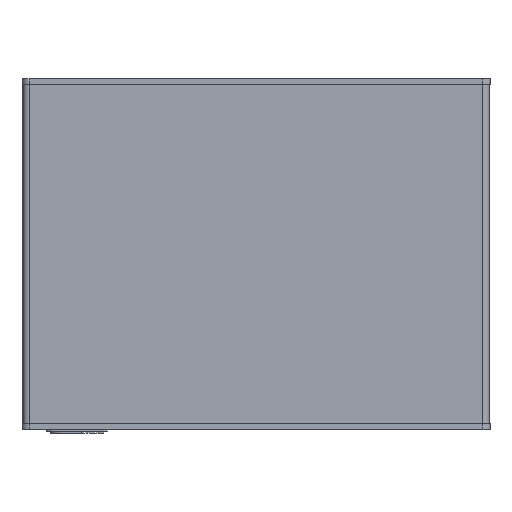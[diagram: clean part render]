
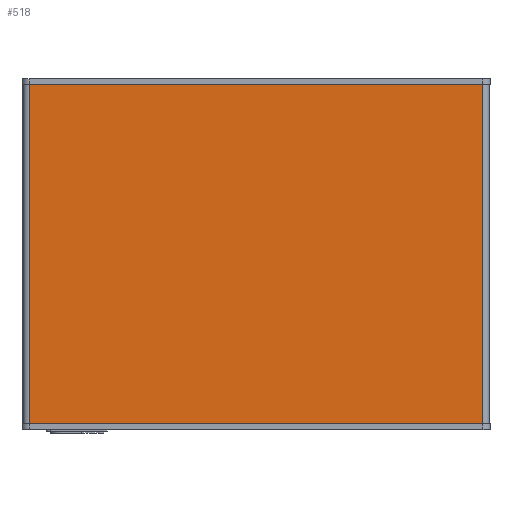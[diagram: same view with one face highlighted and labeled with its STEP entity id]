
A CAD part, top view. The second image highlights one B-rep face of the part: STEP entity #518.
In plain terms, the highlighted free-form (B-spline) face has degree [2, 1] with [3, 2] control points.
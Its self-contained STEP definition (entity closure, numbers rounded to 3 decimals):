
#210=(
BOUNDED_SURFACE()
B_SPLINE_SURFACE(2,1,((#4399,#4400),(#4401,#4402),(#4403,#4404)),
 .UNSPECIFIED.,.F.,.F.,.F.)
B_SPLINE_SURFACE_WITH_KNOTS((3,3),(2,2),(-168.898,-4.031),
(0.,123.192),.UNSPECIFIED.)
GEOMETRIC_REPRESENTATION_ITEM()
RATIONAL_B_SPLINE_SURFACE(((1.,1.),(1.,1.),(1.,1.)))
REPRESENTATION_ITEM('')
SURFACE()
);
#518=ADVANCED_FACE('',(#596),#210,.T.);
#596=FACE_OUTER_BOUND('',#676,.T.);
#676=EDGE_LOOP('',(#987,#988,#989,#990));
#987=ORIENTED_EDGE('',*,*,#1356,.T.);
#988=ORIENTED_EDGE('',*,*,#1357,.T.);
#989=ORIENTED_EDGE('',*,*,#1358,.F.);
#990=ORIENTED_EDGE('',*,*,#1355,.F.);
#1355=EDGE_CURVE('',#1939,#1940,#1573,.T.);
#1356=EDGE_CURVE('',#1939,#1941,#1574,.T.);
#1357=EDGE_CURVE('',#1941,#1942,#1575,.T.);
#1358=EDGE_CURVE('',#1940,#1942,#1576,.T.);
#1573=(
BOUNDED_CURVE()
B_SPLINE_CURVE(1,(#4409,#4410),.UNSPECIFIED.,.F.,.F.)
B_SPLINE_CURVE_WITH_KNOTS((2,2),(0.,123.192),.UNSPECIFIED.)
CURVE()
GEOMETRIC_REPRESENTATION_ITEM()
RATIONAL_B_SPLINE_CURVE((1.,1.))
REPRESENTATION_ITEM('')
);
#1574=(
BOUNDED_CURVE()
B_SPLINE_CURVE(2,(#4411,#4412,#4413),.UNSPECIFIED.,.F.,.F.)
B_SPLINE_CURVE_WITH_KNOTS((3,3),(-168.898,-4.031),
 .UNSPECIFIED.)
CURVE()
GEOMETRIC_REPRESENTATION_ITEM()
RATIONAL_B_SPLINE_CURVE((1.,1.,1.))
REPRESENTATION_ITEM('')
);
#1575=(
BOUNDED_CURVE()
B_SPLINE_CURVE(1,(#4414,#4415),.UNSPECIFIED.,.F.,.F.)
B_SPLINE_CURVE_WITH_KNOTS((2,2),(0.,123.192),.UNSPECIFIED.)
CURVE()
GEOMETRIC_REPRESENTATION_ITEM()
RATIONAL_B_SPLINE_CURVE((1.,1.))
REPRESENTATION_ITEM('')
);
#1576=(
BOUNDED_CURVE()
B_SPLINE_CURVE(2,(#4416,#4417,#4418),.UNSPECIFIED.,.F.,.F.)
B_SPLINE_CURVE_WITH_KNOTS((3,3),(-168.898,-4.031),
 .UNSPECIFIED.)
CURVE()
GEOMETRIC_REPRESENTATION_ITEM()
RATIONAL_B_SPLINE_CURVE((1.,1.,1.))
REPRESENTATION_ITEM('')
);
#1939=VERTEX_POINT('',#4405);
#1940=VERTEX_POINT('',#4406);
#1941=VERTEX_POINT('',#4407);
#1942=VERTEX_POINT('',#4408);
#4399=CARTESIAN_POINT('',(-82.434,-61.593,27.56));
#4400=CARTESIAN_POINT('',(-82.434,61.598,27.56));
#4401=CARTESIAN_POINT('',(0.,-61.593,27.56));
#4402=CARTESIAN_POINT('',(0.,61.598,27.56));
#4403=CARTESIAN_POINT('',(82.434,-61.593,27.56));
#4404=CARTESIAN_POINT('',(82.434,61.598,27.56));
#4405=CARTESIAN_POINT('',(-82.434,-61.593,27.56));
#4406=CARTESIAN_POINT('',(-82.434,61.598,27.56));
#4407=CARTESIAN_POINT('',(82.434,-61.593,27.56));
#4408=CARTESIAN_POINT('',(82.434,61.598,27.56));
#4409=CARTESIAN_POINT('',(-82.434,-61.593,27.56));
#4410=CARTESIAN_POINT('',(-82.434,61.598,27.56));
#4411=CARTESIAN_POINT('',(-82.434,-61.593,27.56));
#4412=CARTESIAN_POINT('',(0.,-61.593,27.56));
#4413=CARTESIAN_POINT('',(82.434,-61.593,27.56));
#4414=CARTESIAN_POINT('',(82.434,-61.593,27.56));
#4415=CARTESIAN_POINT('',(82.434,61.598,27.56));
#4416=CARTESIAN_POINT('',(-82.434,61.598,27.56));
#4417=CARTESIAN_POINT('',(0.,61.598,27.56));
#4418=CARTESIAN_POINT('',(82.434,61.598,27.56));
